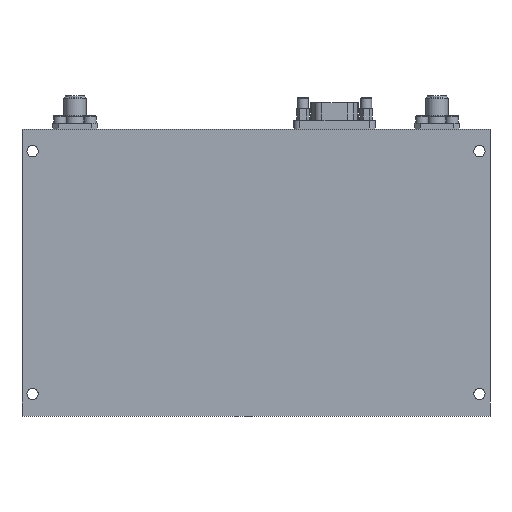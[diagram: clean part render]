
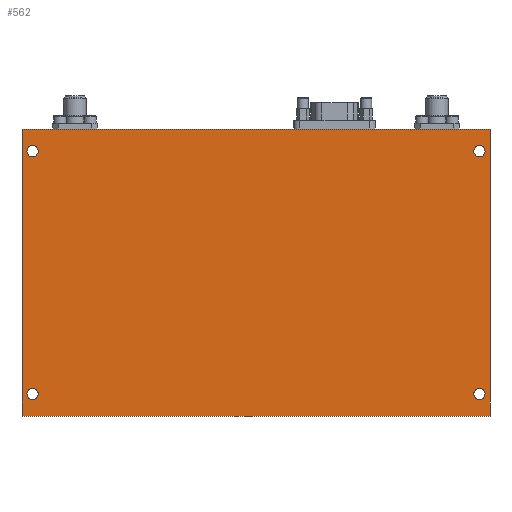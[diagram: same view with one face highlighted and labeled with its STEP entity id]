
A CAD part, front view. The second image highlights one B-rep face of the part: STEP entity #562.
In plain terms, the highlighted planar face has unit normal (0, -1, 0).
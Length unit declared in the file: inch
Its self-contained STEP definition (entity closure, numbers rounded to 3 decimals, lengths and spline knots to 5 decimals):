
#272=CARTESIAN_POINT('',(2.466,0.0,1.375));
#273=VERTEX_POINT('',#272);
#274=CARTESIAN_POINT('',(2.53,0.0,1.375));
#275=DIRECTION('',(0.0,1.0,0.0));
#276=DIRECTION('',(1.0,0.0,0.0));
#277=AXIS2_PLACEMENT_3D('',#274,#275,#276);
#278=CIRCLE('',#277,0.064);
#279=EDGE_CURVE('',#273,#273,#278,.T.);
#300=CARTESIAN_POINT('',(-2.594,0.0,-1.375));
#301=VERTEX_POINT('',#300);
#302=CARTESIAN_POINT('',(-2.53,0.0,-1.375));
#303=DIRECTION('',(0.0,1.0,0.0));
#304=DIRECTION('',(1.0,0.0,0.0));
#305=AXIS2_PLACEMENT_3D('',#302,#303,#304);
#306=CIRCLE('',#305,0.064);
#307=EDGE_CURVE('',#301,#301,#306,.T.);
#328=CARTESIAN_POINT('',(-2.594,0.0,1.375));
#329=VERTEX_POINT('',#328);
#330=CARTESIAN_POINT('',(-2.53,0.0,1.375));
#331=DIRECTION('',(0.0,1.0,0.0));
#332=DIRECTION('',(1.0,0.0,0.0));
#333=AXIS2_PLACEMENT_3D('',#330,#331,#332);
#334=CIRCLE('',#333,0.064);
#335=EDGE_CURVE('',#329,#329,#334,.T.);
#356=CARTESIAN_POINT('',(2.466,0.0,-1.375));
#357=VERTEX_POINT('',#356);
#358=CARTESIAN_POINT('',(2.53,0.0,-1.375));
#359=DIRECTION('',(0.0,1.0,0.0));
#360=DIRECTION('',(1.0,0.0,0.0));
#361=AXIS2_PLACEMENT_3D('',#358,#359,#360);
#362=CIRCLE('',#361,0.064);
#363=EDGE_CURVE('',#357,#357,#362,.T.);
#384=CARTESIAN_POINT('',(-2.65,0.0,1.625));
#385=VERTEX_POINT('',#384);
#386=CARTESIAN_POINT('',(-2.65,0.0,-1.625));
#387=VERTEX_POINT('',#386);
#388=CARTESIAN_POINT('',(-2.65,0.0,1.625));
#389=DIRECTION('',(0.0,0.0,-1.0));
#390=VECTOR('',#389,3.25);
#391=LINE('',#388,#390);
#392=EDGE_CURVE('',#385,#387,#391,.T.);
#424=CARTESIAN_POINT('',(2.65,0.0,-1.625));
#425=VERTEX_POINT('',#424);
#426=CARTESIAN_POINT('',(-2.65,0.0,-1.625));
#427=DIRECTION('',(1.0,0.0,0.0));
#428=VECTOR('',#427,5.3);
#429=LINE('',#426,#428);
#430=EDGE_CURVE('',#387,#425,#429,.T.);
#455=CARTESIAN_POINT('',(2.65,0.0,1.625));
#456=VERTEX_POINT('',#455);
#457=CARTESIAN_POINT('',(2.65,0.0,-1.625));
#458=DIRECTION('',(0.0,0.0,1.0));
#459=VECTOR('',#458,3.25);
#460=LINE('',#457,#459);
#461=EDGE_CURVE('',#425,#456,#460,.T.);
#486=CARTESIAN_POINT('',(2.65,0.0,1.625));
#487=DIRECTION('',(-1.0,0.0,0.0));
#488=VECTOR('',#487,5.3);
#489=LINE('',#486,#488);
#490=EDGE_CURVE('',#456,#385,#489,.T.);
#539=CARTESIAN_POINT('',(0.0,0.0,0.0));
#540=DIRECTION('',(0.0,1.0,0.0));
#541=DIRECTION('',(0.0,0.0,1.0));
#542=AXIS2_PLACEMENT_3D('',#539,#540,#541);
#543=PLANE('',#542);
#544=ORIENTED_EDGE('',*,*,#490,.T.);
#545=ORIENTED_EDGE('',*,*,#392,.T.);
#546=ORIENTED_EDGE('',*,*,#430,.T.);
#547=ORIENTED_EDGE('',*,*,#461,.T.);
#548=EDGE_LOOP('',(#544,#545,#546,#547));
#549=FACE_OUTER_BOUND('',#548,.T.);
#550=ORIENTED_EDGE('',*,*,#279,.T.);
#551=EDGE_LOOP('',(#550));
#552=FACE_BOUND('',#551,.T.);
#553=ORIENTED_EDGE('',*,*,#307,.T.);
#554=EDGE_LOOP('',(#553));
#555=FACE_BOUND('',#554,.T.);
#556=ORIENTED_EDGE('',*,*,#335,.T.);
#557=EDGE_LOOP('',(#556));
#558=FACE_BOUND('',#557,.T.);
#559=ORIENTED_EDGE('',*,*,#363,.T.);
#560=EDGE_LOOP('',(#559));
#561=FACE_BOUND('',#560,.T.);
#562=ADVANCED_FACE('',(#549,#552,#555,#558,#561),#543,.F.);
